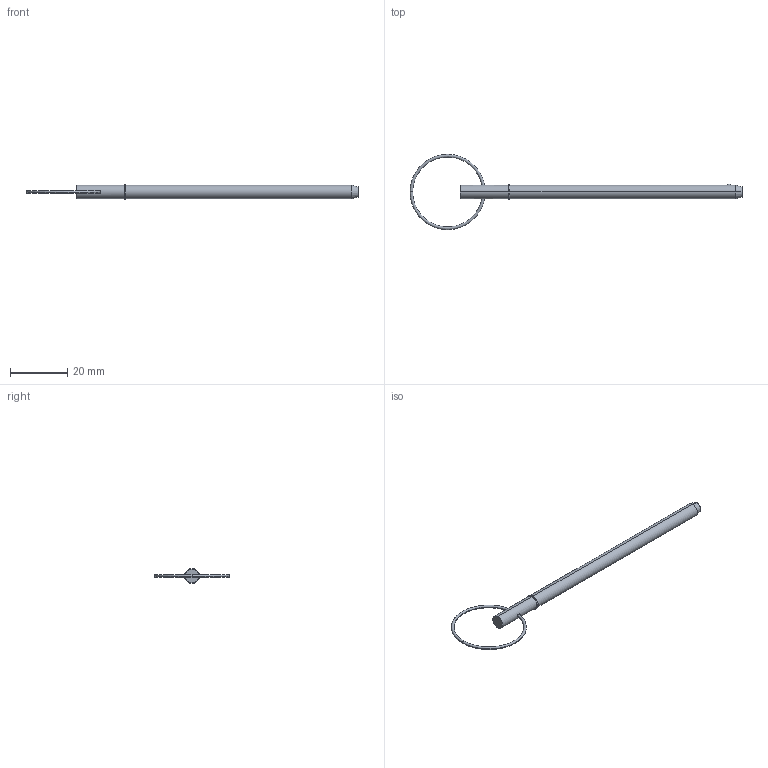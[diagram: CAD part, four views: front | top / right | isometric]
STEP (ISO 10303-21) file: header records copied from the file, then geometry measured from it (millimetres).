
FILE_DESCRIPTION (( 'STEP AP203' ), '1' );
FILE_NAME ('33016.W1830.step', '2024-11-07T11:01:31', ( '' ), ( '' ), 'SwSTEP 2.0', 'SolidWorks 2019', '' );
FILE_SCHEMA (( 'CONFIG_CONTROL_DESIGN' ));
Length unit declared in the file: millimetre
Products named in the file (3): Part1_33016.W1830; Part2_33016.W1830; 33016.W1830
Assembly tree (2 placements, depth 2):
  33016.W1830
    Part1_33016.W1830
    Part2_33016.W1830
Bounding box: 116.26 x 26.35 x 5.24 mm (x, y, z)
Volume: 1801.5 mm3; surface area: 1763.9 mm2
Topology: 2 solids, 2 shells, 22 faces, 43 edges, 26 vertices
Faces by surface type: torus 8, cylinder 6, plane 4, sphere 2, cone 2
Entity records: 941 total; most frequent: CARTESIAN_POINT 164, DIRECTION 120, ORIENTED_EDGE 86, AXIS2_PLACEMENT_3D 56, EDGE_CURVE 43, CIRCLE 29, EDGE_LOOP 27, VERTEX_POINT 26
